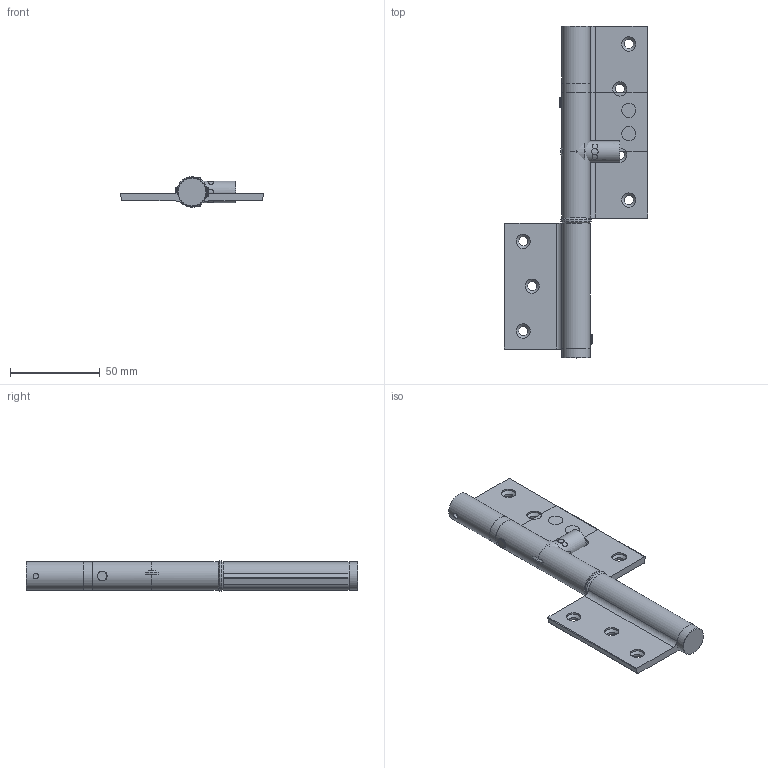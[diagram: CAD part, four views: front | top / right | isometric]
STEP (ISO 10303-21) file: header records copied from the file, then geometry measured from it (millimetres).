
FILE_DESCRIPTION( ( 'Unknown' ), '1' );
FILE_NAME( 'N:/HoKon Zeichnungen/_Kataloge Fremd/Justor/3D-Daten/717.015.0.0 Conjunt MP/158.6717.01 .stp', 'Unknown', ( 'Unknown' ), ( 'Unknown' ), 'PSStep 14.0', 'Unknown', ' ' );
FILE_SCHEMA( ( 'AUTOMOTIVE_DESIGN { 1 0 10303 214 1 1 1 1 }' ) );
Length unit declared in the file: millimetre
Products named in the file (7): Assem1; 057.014.0.2 55707 Pala MP; 057.019.0.0 55708 Tub Intermig MP; 057.028.0.0 55719 Tap Frontissa -Foradat-; 057.020.0.2 Passador Frontisses 3 x 9.5; 057.024.0.3 76282 Passador Fixe MP 3x8; 057.029.0.2 76327 Tap Frontissa Cec
Bounding box: 80 x 185 x 16.99 mm (x, y, z)
Volume: 56191.3 mm3; surface area: 41860.7 mm2
Topology: 13 solids, 13 shells, 310 faces, 750 edges, 450 vertices
Faces by surface type: cylinder 131, plane 105, cone 50, sphere 16, torus 8
Full cylindrical faces by diameter (mm): 2.5 x4, 3 x6, 3.1 x15, 3.3 x2, 3.6 x4, 5.2 x9, 5.5 x4, 8 x9, 11.6 x4, 12 x4, 12.05 x3, 12.2 x2, 16 x4, 17 x2
Entity records: 5470 total; most frequent: CARTESIAN_POINT 1229, DIRECTION 664, ORIENTED_EDGE 518, AXIS2_PLACEMENT_3D 282, EDGE_CURVE 259, EDGE_LOOP 228, VERTEX_POINT 187, FACE_OUTER_BOUND 179
